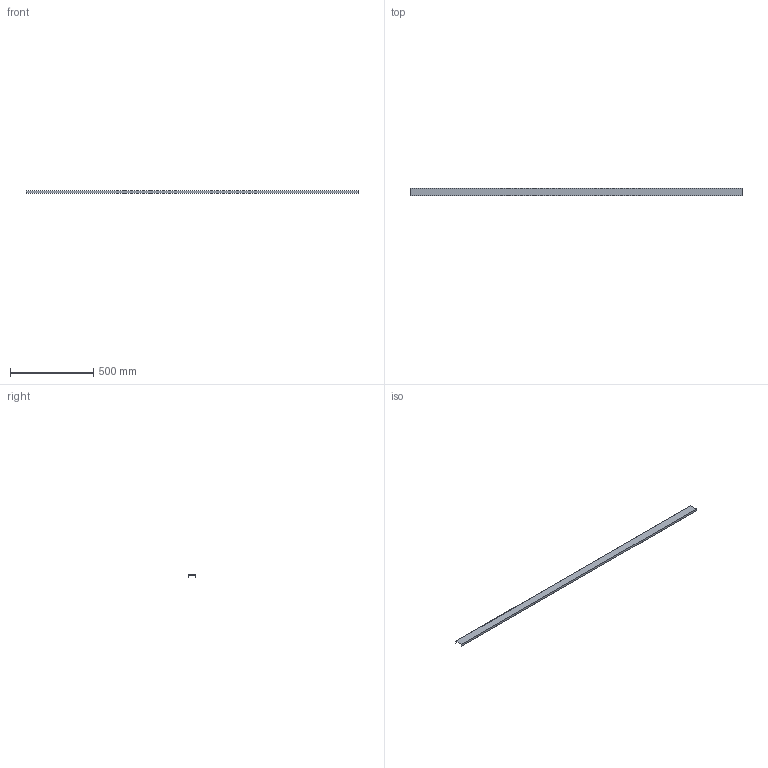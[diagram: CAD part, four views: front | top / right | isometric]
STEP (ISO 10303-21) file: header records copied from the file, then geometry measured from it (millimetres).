
FILE_DESCRIPTION(('STEP AP242'),'1');
FILE_NAME('OPO_65.084.47.stp','2026-02-23T17:31:37',(' '),(' '),'Spatial InterOp 3D',' ',' ');
FILE_SCHEMA(('AP242_MANAGED_MODEL_BASED_3D_ENGINEERING_MIM_LF {1 0 10303 442 1 1 4}'));
Length unit declared in the file: millimetre
Products named in the file (1): 1
Bounding box: 2000 x 48 x 13.5 mm (x, y, z)
Volume: 146000 mm3; surface area: 296146 mm2
Topology: 1 solids, 1 shells, 52 faces, 136 edges, 90 vertices
Faces by surface type: plane 32, cylinder 20
Entity records: 2036 total; most frequent: DIRECTION 282, CARTESIAN_POINT 279, ORIENTED_EDGE 272, EDGE_CURVE 136, LINE 96, VECTOR 96, AXIS2_PLACEMENT_3D 93, VERTEX_POINT 90
